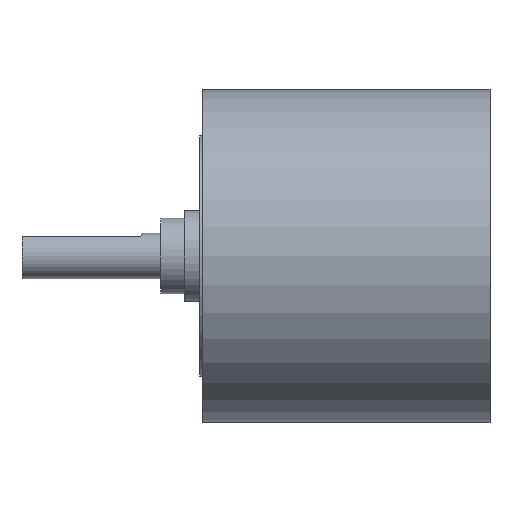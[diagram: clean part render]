
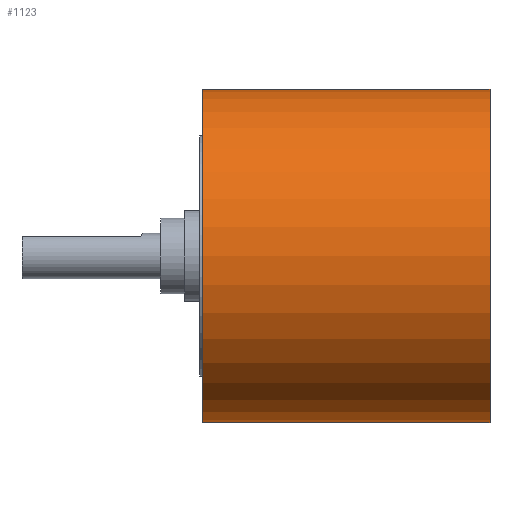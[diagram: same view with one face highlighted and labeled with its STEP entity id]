
A CAD part, top view. The second image highlights one B-rep face of the part: STEP entity #1123.
In plain terms, the highlighted cylindrical face has radius 11 mm (diameter 22 mm), a partial arc.
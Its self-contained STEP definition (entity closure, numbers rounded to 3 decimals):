
#6=CARTESIAN_POINT('',(0.2,0.,0.));
#7=DIRECTION('',(1.,0.,0.));
#8=DIRECTION('',(0.,1.,0.));
#9=AXIS2_PLACEMENT_3D('',#6,#7,#8);
#365=DIRECTION('',(-1.,0.,0.));
#366=VECTOR('',#365,18.95);
#367=CARTESIAN_POINT('',(19.15,11.,0.));
#368=LINE('',#367,#366);
#369=DIRECTION('',(-1.,0.,0.));
#370=VECTOR('',#369,18.95);
#371=CARTESIAN_POINT('',(19.15,-11.,0.));
#372=LINE('',#371,#370);
#378=CARTESIAN_POINT('',(19.15,0.,0.));
#379=DIRECTION('',(1.,0.,0.));
#380=DIRECTION('',(0.,1.,0.));
#381=AXIS2_PLACEMENT_3D('',#378,#379,#380);
#419=CARTESIAN_POINT('',(19.15,11.,0.));
#420=CARTESIAN_POINT('',(0.2,11.,0.));
#421=VERTEX_POINT('',#419);
#422=VERTEX_POINT('',#420);
#435=CARTESIAN_POINT('',(19.15,-11.,0.));
#436=CARTESIAN_POINT('',(0.2,-11.,0.));
#437=VERTEX_POINT('',#435);
#438=VERTEX_POINT('',#436);
#1111=CARTESIAN_POINT('',(-11.75,0.,0.));
#1112=DIRECTION('',(1.,0.,0.));
#1113=DIRECTION('',(0.,-1.,0.));
#1114=AXIS2_PLACEMENT_3D('',#1111,#1112,#1113);
#1115=CYLINDRICAL_SURFACE('',#1114,11.);
#1116=ORIENTED_EDGE('',*,*,#1101,.F.);
#1118=ORIENTED_EDGE('',*,*,#1117,.T.);
#1119=ORIENTED_EDGE('',*,*,#1104,.T.);
#1120=ORIENTED_EDGE('',*,*,#533,.F.);
#1121=EDGE_LOOP('',(#1116,#1118,#1119,#1120));
#1122=FACE_OUTER_BOUND('',#1121,.F.);
#1123=ADVANCED_FACE('',(#1122),#1115,.T.);
#10=CIRCLE('',#9,11.);
#382=CIRCLE('',#381,11.);
#533=EDGE_CURVE('',#422,#438,#10,.T.);
#1101=EDGE_CURVE('',#421,#422,#368,.T.);
#1104=EDGE_CURVE('',#437,#438,#372,.T.);
#1117=EDGE_CURVE('',#421,#437,#382,.T.);
